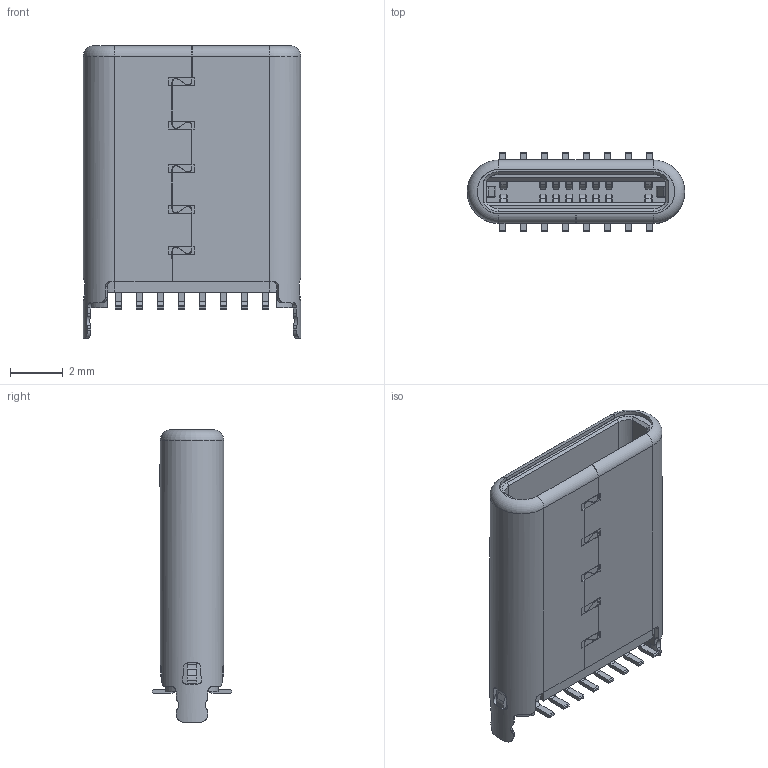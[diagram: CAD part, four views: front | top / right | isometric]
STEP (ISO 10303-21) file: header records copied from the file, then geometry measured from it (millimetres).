
FILE_DESCRIPTION((' '),'2;1');
FILE_NAME( 'U5379-16PE10.0L.stp', '2026-05-11T14:26:14', (' '), ('--- ---'), ' V2026.1 Dec 31 2025', ' 2026 (c)', ' ');
FILE_SCHEMA(('AP242_MANAGED_MODEL_BASED_3D_ENGINEERING_MIM_LF { 1 0 10303 442 1 1 4 }'));
Length unit declared in the file: millimetre
Products named in the file (1): U5379-16PE10.0L
Bounding box: 8.25 x 3.01 x 11.1 mm (x, y, z)
Volume: 122 mm3; surface area: 894.3 mm2
Topology: 1 solids, 1 shells, 1515 faces, 4377 edges, 2862 vertices
Faces by surface type: plane 1121, cylinder 294, bspline 71, cone 23, torus 6
Entity records: 52295 total; most frequent: CARTESIAN_POINT 13277, ORIENTED_EDGE 8754, DIRECTION 7223, EDGE_CURVE 4377, VECTOR 3313, LINE 3313, VERTEX_POINT 2862, AXIS2_PLACEMENT_3D 1955
